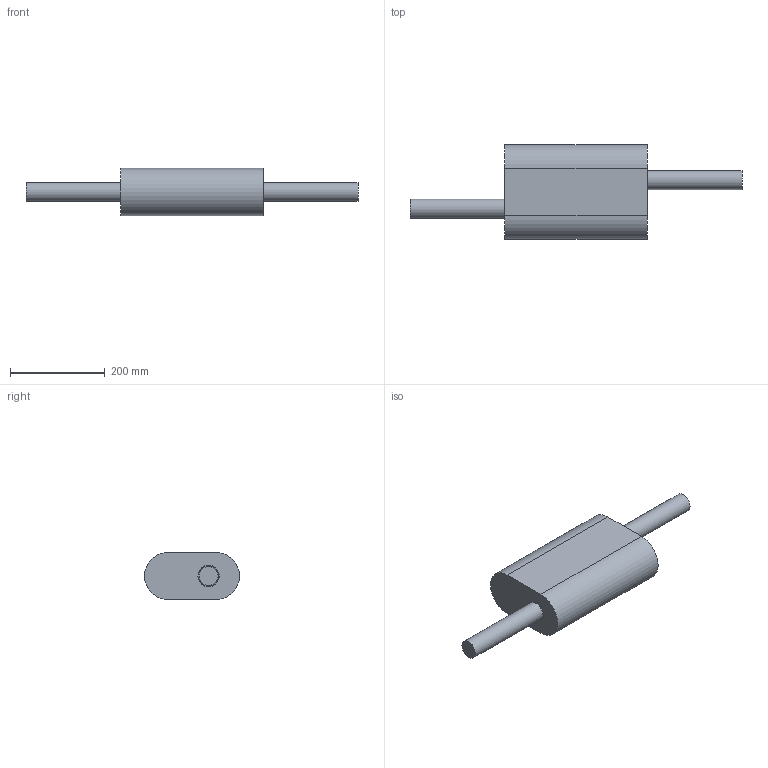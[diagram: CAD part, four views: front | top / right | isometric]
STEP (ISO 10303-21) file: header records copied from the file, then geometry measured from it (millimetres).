
FILE_DESCRIPTION(('FreeCAD Model'),'2;1');
FILE_NAME('C:/Users/AMOD/Desktop/exhaustMuffler.step', '2018-07-22T21:06:05',(''),(''),'Open CASCADE STEP processor 7.2', 'FreeCAD','Unknown');
FILE_SCHEMA(('AUTOMOTIVE_DESIGN { 1 0 10303 214 1 1 1 1 }'));
Products named in the file (3): Cut; Cylinder; Cylinder001
Bounding box: 700 x 200 x 100 mm (x, y, z)
Volume: 5780125.2 mm3; surface area: 312008.6 mm2
Topology: 3 solids, 3 shells, 112 faces, 344 edges, 224 vertices
Faces by surface type: cylinder 102, plane 10
Full cylindrical faces by diameter (mm): 5 x96, 40 x3, 45 x1
Entity records: 130974 total; most frequent: CARTESIAN_POINT 124203, ORIENTED_EDGE 688, PCURVE 688, DEFINITIONAL_REPRESENTATION 688, DIRECTION 642, B_SPLINE_CURVE_WITH_KNOTS 626, LINE 382, VECTOR 382
